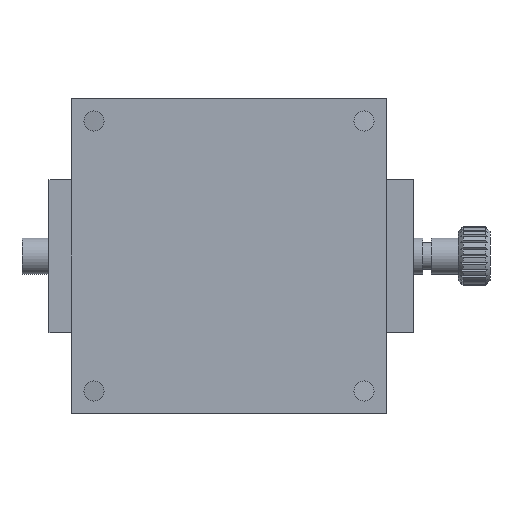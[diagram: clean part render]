
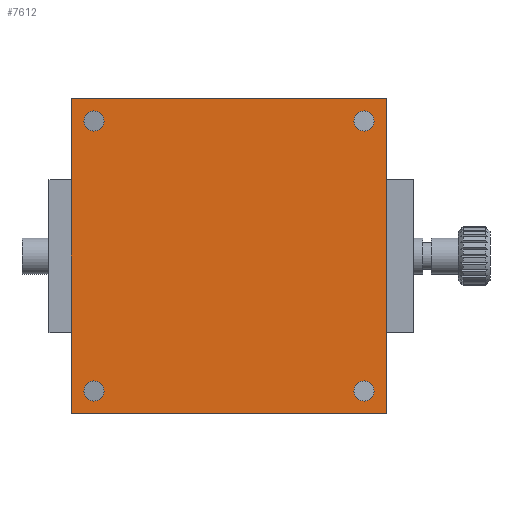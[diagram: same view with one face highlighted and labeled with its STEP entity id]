
A CAD part, front view. The second image highlights one B-rep face of the part: STEP entity #7612.
In plain terms, the highlighted planar face has unit normal (0, -1, 0).
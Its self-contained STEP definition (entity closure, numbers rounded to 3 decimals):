
#1629 = CARTESIAN_POINT ( 'NONE',  ( 30., 0., -30. ) ) ;
#1670 = DIRECTION ( 'NONE',  ( 1., 0., 0. ) ) ;
#1685 = AXIS2_PLACEMENT_3D ( 'NONE', #1629, #17557, #3520 ) ;
#1873 = VERTEX_POINT ( 'NONE', #2488 ) ;
#2072 = DIRECTION ( 'NONE',  ( 0., 0., 1. ) ) ;
#2488 = CARTESIAN_POINT ( 'NONE',  ( -30., 0., -27.75 ) ) ;
#2760 = VECTOR ( 'NONE', #1670, 1000. ) ;
#3102 = VERTEX_POINT ( 'NONE', #12993 ) ;
#3157 = DIRECTION ( 'NONE',  ( 0., 1., 0. ) ) ;
#3520 = DIRECTION ( 'NONE',  ( 0., 0., 1. ) ) ;
#3789 = CARTESIAN_POINT ( 'NONE',  ( -35., 0., -35. ) ) ;
#3971 = CARTESIAN_POINT ( 'NONE',  ( -30., 0., -30. ) ) ;
#4088 = VECTOR ( 'NONE', #5691, 1000. ) ;
#4570 = LINE ( 'NONE', #19874, #14399 ) ;
#4933 = VERTEX_POINT ( 'NONE', #4949 ) ;
#4949 = CARTESIAN_POINT ( 'NONE',  ( 35., 0., -35. ) ) ;
#5060 = PLANE ( 'NONE',  #9839 ) ;
#5251 = VECTOR ( 'NONE', #9101, 1000. ) ;
#5457 = DIRECTION ( 'NONE',  ( 0., 0., 1. ) ) ;
#5536 = ORIENTED_EDGE ( 'NONE', *, *, #17934, .F. ) ;
#5577 = VERTEX_POINT ( 'NONE', #14890 ) ;
#5691 = DIRECTION ( 'NONE',  ( 0., 0., 1. ) ) ;
#5819 = CARTESIAN_POINT ( 'NONE',  ( -30., 0., 27.75 ) ) ;
#6071 = CIRCLE ( 'NONE', #13263, 2.25 ) ;
#6275 = DIRECTION ( 'NONE',  ( 0., 0., 1. ) ) ;
#6359 = DIRECTION ( 'NONE',  ( 0., 1., 0. ) ) ;
#6527 = CARTESIAN_POINT ( 'NONE',  ( 30., 0., -32.25 ) ) ;
#6896 = EDGE_CURVE ( 'NONE', #12154, #3102, #21192, .T. ) ;
#6967 = FACE_BOUND ( 'NONE', #22368, .T. ) ;
#7086 = CARTESIAN_POINT ( 'NONE',  ( 30., 0., 30. ) ) ;
#7357 = AXIS2_PLACEMENT_3D ( 'NONE', #19082, #9235, #11220 ) ;
#7399 = EDGE_CURVE ( 'NONE', #22456, #20696, #23690, .T. ) ;
#7612 = ADVANCED_FACE ( 'NONE', ( #6967, #12489, #11599, #9740, #10351 ), #5060, .T. ) ;
#7668 = CARTESIAN_POINT ( 'NONE',  ( -35., 0., 35. ) ) ;
#7974 = LINE ( 'NONE', #21112, #2760 ) ;
#8028 = VERTEX_POINT ( 'NONE', #10373 ) ;
#8721 = DIRECTION ( 'NONE',  ( 0., 0., 1. ) ) ;
#8911 = CIRCLE ( 'NONE', #21201, 2.25 ) ;
#9101 = DIRECTION ( 'NONE',  ( -1., 0., 0. ) ) ;
#9235 = DIRECTION ( 'NONE',  ( 0., 1., 0. ) ) ;
#9397 = ORIENTED_EDGE ( 'NONE', *, *, #6896, .T. ) ;
#9404 = DIRECTION ( 'NONE',  ( 0., 1., 0. ) ) ;
#9638 = CARTESIAN_POINT ( 'NONE',  ( 30., 0., 32.25 ) ) ;
#9740 = FACE_BOUND ( 'NONE', #20264, .T. ) ;
#9839 = AXIS2_PLACEMENT_3D ( 'NONE', #18854, #18936, #24762 ) ;
#10141 = CARTESIAN_POINT ( 'NONE',  ( 30., 0., 30. ) ) ;
#10222 = DIRECTION ( 'NONE',  ( 0., 0., -1. ) ) ;
#10228 = EDGE_LOOP ( 'NONE', ( #13019, #21893, #17215, #5536 ) ) ;
#10291 = EDGE_CURVE ( 'NONE', #15609, #19039, #22621, .T. ) ;
#10351 = FACE_OUTER_BOUND ( 'NONE', #10228, .T. ) ;
#10373 = CARTESIAN_POINT ( 'NONE',  ( -30., 0., -32.25 ) ) ;
#10468 = LINE ( 'NONE', #25114, #5251 ) ;
#10726 = ORIENTED_EDGE ( 'NONE', *, *, #17577, .T. ) ;
#10974 = EDGE_CURVE ( 'NONE', #3102, #12154, #17039, .T. ) ;
#11220 = DIRECTION ( 'NONE',  ( 0., 0., 1. ) ) ;
#11332 = ORIENTED_EDGE ( 'NONE', *, *, #12621, .T. ) ;
#11599 = FACE_BOUND ( 'NONE', #14966, .T. ) ;
#11875 = ORIENTED_EDGE ( 'NONE', *, *, #10291, .T. ) ;
#12154 = VERTEX_POINT ( 'NONE', #5819 ) ;
#12489 = FACE_BOUND ( 'NONE', #18274, .T. ) ;
#12621 = EDGE_CURVE ( 'NONE', #19039, #15609, #20955, .T. ) ;
#12993 = CARTESIAN_POINT ( 'NONE',  ( -30., 0., 32.25 ) ) ;
#13019 = ORIENTED_EDGE ( 'NONE', *, *, #14063, .F. ) ;
#13263 = AXIS2_PLACEMENT_3D ( 'NONE', #3971, #15678, #23649 ) ;
#14063 = EDGE_CURVE ( 'NONE', #20248, #4933, #4570, .T. ) ;
#14160 = ORIENTED_EDGE ( 'NONE', *, *, #7399, .T. ) ;
#14399 = VECTOR ( 'NONE', #10222, 1000. ) ;
#14890 = CARTESIAN_POINT ( 'NONE',  ( -35., 0., 35. ) ) ;
#14966 = EDGE_LOOP ( 'NONE', ( #25301, #9397 ) ) ;
#15534 = CARTESIAN_POINT ( 'NONE',  ( -30., 0., 30. ) ) ;
#15609 = VERTEX_POINT ( 'NONE', #17932 ) ;
#15678 = DIRECTION ( 'NONE',  ( 0., 1., 0. ) ) ;
#16022 = VERTEX_POINT ( 'NONE', #3789 ) ;
#16226 = EDGE_CURVE ( 'NONE', #1873, #8028, #23922, .T. ) ;
#17039 = CIRCLE ( 'NONE', #19620, 2.25 ) ;
#17149 = AXIS2_PLACEMENT_3D ( 'NONE', #24499, #20382, #2072 ) ;
#17172 = ORIENTED_EDGE ( 'NONE', *, *, #16226, .T. ) ;
#17215 = ORIENTED_EDGE ( 'NONE', *, *, #17422, .F. ) ;
#17422 = EDGE_CURVE ( 'NONE', #16022, #5577, #21956, .T. ) ;
#17557 = DIRECTION ( 'NONE',  ( 0., 1., 0. ) ) ;
#17577 = EDGE_CURVE ( 'NONE', #8028, #1873, #6071, .T. ) ;
#17932 = CARTESIAN_POINT ( 'NONE',  ( 30., 0., -27.75 ) ) ;
#17934 = EDGE_CURVE ( 'NONE', #4933, #16022, #10468, .T. ) ;
#18267 = EDGE_CURVE ( 'NONE', #20696, #22456, #8911, .T. ) ;
#18274 = EDGE_LOOP ( 'NONE', ( #14160, #21225 ) ) ;
#18574 = DIRECTION ( 'NONE',  ( 0., 0., 1. ) ) ;
#18769 = EDGE_CURVE ( 'NONE', #5577, #20248, #7974, .T. ) ;
#18854 = CARTESIAN_POINT ( 'NONE',  ( 0., 0., 0. ) ) ;
#18936 = DIRECTION ( 'NONE',  ( 0., -1., 0. ) ) ;
#19039 = VERTEX_POINT ( 'NONE', #6527 ) ;
#19082 = CARTESIAN_POINT ( 'NONE',  ( -30., 0., 30. ) ) ;
#19569 = CARTESIAN_POINT ( 'NONE',  ( 35., 0., 35. ) ) ;
#19620 = AXIS2_PLACEMENT_3D ( 'NONE', #15534, #9404, #5457 ) ;
#19874 = CARTESIAN_POINT ( 'NONE',  ( 35., 0., 35. ) ) ;
#20248 = VERTEX_POINT ( 'NONE', #19569 ) ;
#20264 = EDGE_LOOP ( 'NONE', ( #17172, #10726 ) ) ;
#20362 = DIRECTION ( 'NONE',  ( 0., 1., 0. ) ) ;
#20382 = DIRECTION ( 'NONE',  ( 0., 1., 0. ) ) ;
#20656 = AXIS2_PLACEMENT_3D ( 'NONE', #24558, #20362, #18574 ) ;
#20696 = VERTEX_POINT ( 'NONE', #25134 ) ;
#20955 = CIRCLE ( 'NONE', #1685, 2.25 ) ;
#21112 = CARTESIAN_POINT ( 'NONE',  ( -35., 0., 35. ) ) ;
#21192 = CIRCLE ( 'NONE', #7357, 2.25 ) ;
#21201 = AXIS2_PLACEMENT_3D ( 'NONE', #7086, #3157, #8721 ) ;
#21225 = ORIENTED_EDGE ( 'NONE', *, *, #18267, .T. ) ;
#21743 = AXIS2_PLACEMENT_3D ( 'NONE', #10141, #6359, #6275 ) ;
#21893 = ORIENTED_EDGE ( 'NONE', *, *, #18769, .F. ) ;
#21956 = LINE ( 'NONE', #7668, #4088 ) ;
#22368 = EDGE_LOOP ( 'NONE', ( #11875, #11332 ) ) ;
#22456 = VERTEX_POINT ( 'NONE', #9638 ) ;
#22621 = CIRCLE ( 'NONE', #17149, 2.25 ) ;
#23649 = DIRECTION ( 'NONE',  ( 0., 0., 1. ) ) ;
#23690 = CIRCLE ( 'NONE', #21743, 2.25 ) ;
#23922 = CIRCLE ( 'NONE', #20656, 2.25 ) ;
#24499 = CARTESIAN_POINT ( 'NONE',  ( 30., 0., -30. ) ) ;
#24558 = CARTESIAN_POINT ( 'NONE',  ( -30., 0., -30. ) ) ;
#24762 = DIRECTION ( 'NONE',  ( 0., 0., -1. ) ) ;
#25114 = CARTESIAN_POINT ( 'NONE',  ( -35., 0., -35. ) ) ;
#25134 = CARTESIAN_POINT ( 'NONE',  ( 30., 0., 27.75 ) ) ;
#25301 = ORIENTED_EDGE ( 'NONE', *, *, #10974, .T. ) ;
